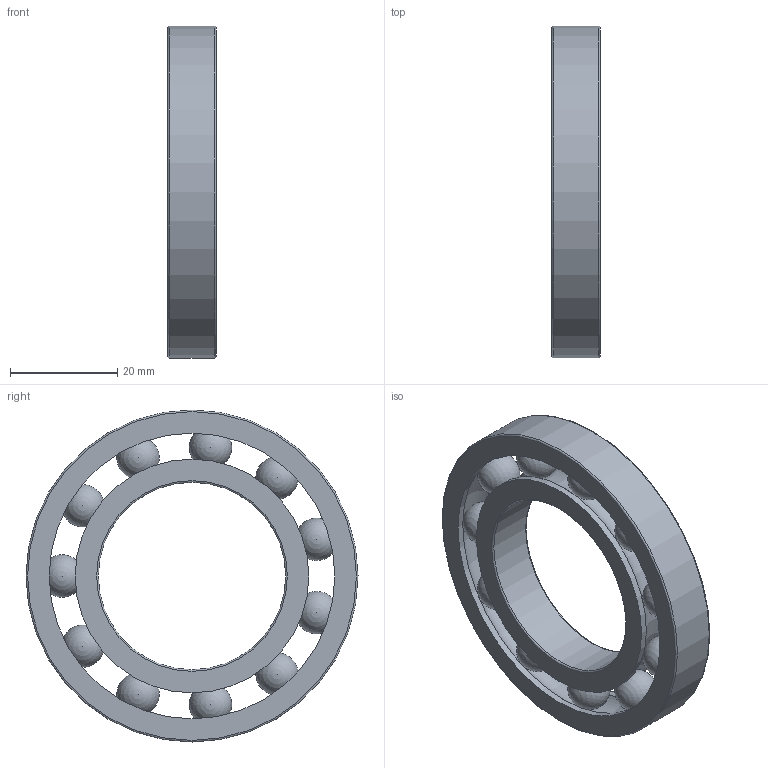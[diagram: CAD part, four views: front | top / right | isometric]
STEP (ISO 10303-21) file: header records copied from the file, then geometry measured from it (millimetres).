
FILE_DESCRIPTION(/* description */ ('STEP AP214'),/* implementation_level */ '2;1');
FILE_NAME(/* name */ '16007',/* time_stamp */ '2024-08-01T09:11:12+02:00',/* author */ ('License CC BY-ND 4.0'),/* organization */ ('CADENAS'),/* preprocessor_version */ 'ST-DEVELOPER v19.3',/* originating_system */ 'PARTsolutions',/* authorisation */ ' ');
FILE_SCHEMA (('AUTOMOTIVE_DESIGN {1 0 10303 214 3 1 1}'));
Length unit declared in the file: millimetre
Products named in the file (4): 16007; 16007 Inner Ring; 16007 Outer Ring; 16007 Ball
Assembly tree (13 placements, depth 2):
  16007
    16007 Inner Ring
    16007 Outer Ring
    16007 Ball  x11
Bounding box: 9 x 62 x 62 mm (x, y, z)
Volume: 12510.9 mm3; surface area: 10546.2 mm2
Topology: 13 solids, 13 shells, 27 faces, 61 edges, 38 vertices
Faces by surface type: sphere 11, torus 6, cylinder 6, plane 4
Full cylindrical faces by diameter (mm): 35 x1, 43.64 x2, 53.36 x2, 62 x1
Entity records: 527 total; most frequent: DIRECTION 94, CARTESIAN_POINT 64, AXIS2_PLACEMENT_3D 47, FACE_BOUND 33, ORIENTED_EDGE 32, EDGE_LOOP 32, VERTEX_POINT 17, ADVANCED_FACE 17
